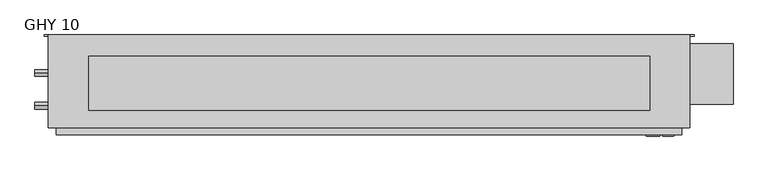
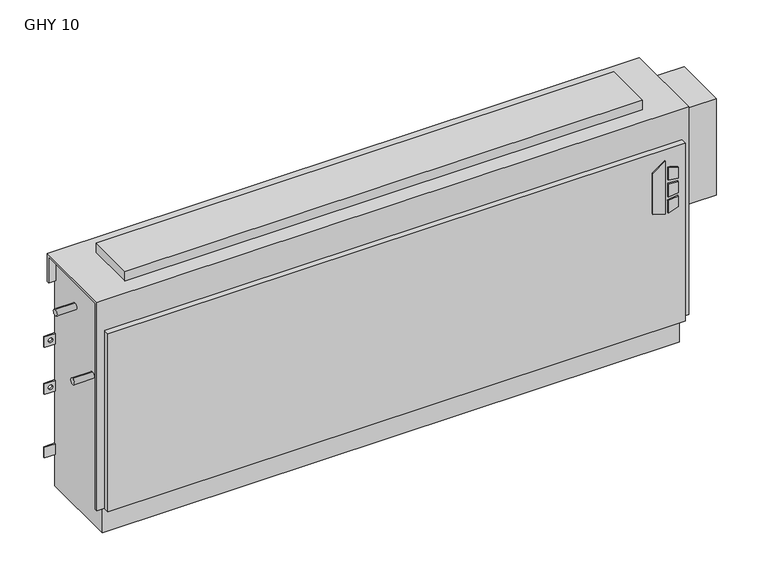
"""IFC4 building model written with IfcOpenShell, lengths in millimetres: proxy geometry, Vertical_Fan_Coil_Unit_-_GHY_-_IEC_-_2-Pipe_TS-FR_LH_2022 : GHY 10."""

from ifc_helpers import new_model, si_unit, point, frame, frame_2d, origin, place, context, project, spatial, polyline, circle_curve, trimmed, segment, composite_curve, outline, extrude, source, transform, mapped, element, save
from ifc_brep_helpers import plane_surface, revolved_surface, advanced_brep


def ghy_10_11aaa538(model_context):
    return source(origin(), model_context, "Body", "SolidModel", [
        extrude(outline(polyline([(391.6086829, 804.9368862), (381.6606126, 837.1102728), (523.831537, 837.1102728), (500.8095309, 804.9368862), (391.6086829, 804.9368862)])), frame((0.0, 6.35, 0.0), z_axis=(0.0, 1.0, 0.0), x_axis=(0.0, 0.0, 1.0)), (0.0, 0.0, 1.0), 3.175),
        extrude(outline(polyline([(470.6079683, 843.8686058), (467.4055757, 869.95), (496.6344168, 869.95), (504.6988318, 843.8686058), (470.6079683, 843.8686058)])), frame((0.0, 6.35, 0.0), z_axis=(0.0, 1.0, 0.0), x_axis=(0.0, 0.0, 1.0)), (0.0, 0.0, 1.0), 3.175),
        extrude(outline(polyline([(418.7444414, 869.95), (415.0789404, 843.8686058), (381.6606126, 843.8686058), (390.2948498, 869.95), (418.7444414, 869.95)])), frame((0.0, 6.35, 0.0), z_axis=(0.0, 1.0, 0.0), x_axis=(0.0, 0.0, 1.0)), (0.0, 0.0, 1.0), 3.175),
        extrude(outline(polyline([(458.0596028, 869.95), (460.3414292, 843.8686058), (424.4038806, 843.8686058), (427.1451456, 869.95), (458.0596028, 869.95)])), frame((0.0, 6.35, 0.0), z_axis=(0.0, 1.0, 0.0), x_axis=(0.0, 0.0, 1.0)), (0.0, 0.0, 1.0), 3.175),
        extrude(outline(polyline([(812.8, 193.675), (812.8, 66.675), (-508.0, 66.675), (-508.0, 193.675), (812.8, 193.675)])), frame((0.0, 0.0, 635.0), z_axis=(0.0, 0.0, 1.0), x_axis=(1.0, 0.0, 0.0)), (0.0, 0.0, 1.0), 25.4),
        extrude(outline(composite_curve([segment(trimmed(circle_curve(frame_2d((77.597, 401.574)), 7.9375), [point((77.597, 409.5115))], [point((77.597, 393.6365))], False, "CARTESIAN"), True, "CONTINUOUS"), segment(trimmed(circle_curve(frame_2d((77.597, 401.574)), 7.9375), [point((77.597, 393.6365))], [point((77.597, 409.5115))], False, "CARTESIAN"), True, "CONTINUOUS")], self_intersect=False)), frame((-635.0, 0.0, 0.0), z_axis=(1.0, 0.0, 0.0), x_axis=(0.0, 1.0, 0.0)), (0.0, 0.0, 1.0), 50.8),
        extrude(outline(composite_curve([segment(trimmed(circle_curve(frame_2d((154.559, 540.512)), 7.9375), [point((154.559, 548.4495))], [point((154.559, 532.5745))], False, "CARTESIAN"), True, "CONTINUOUS"), segment(trimmed(circle_curve(frame_2d((154.559, 540.512)), 7.9375), [point((154.559, 532.5745))], [point((154.559, 548.4495))], False, "CARTESIAN"), True, "CONTINUOUS")], self_intersect=False)), frame((-635.0, 0.0, 0.0), z_axis=(1.0, 0.0, 0.0), x_axis=(0.0, 1.0, 0.0)), (0.0, 0.0, 1.0), 50.8),
        extrude(outline(polyline([(1009.65, 223.266), (1009.65, 81.534), (889.0, 81.534), (889.0, 223.266), (1009.65, 223.266)])), frame((0.0, 0.0, 327.025), z_axis=(0.0, 0.0, 1.0), x_axis=(1.0, 0.0, 0.0)), (0.0, 0.0, 1.0), 260.35),
        advanced_brep(
        [(908.05, 244.475, 635.0), (-603.25, 244.475, 635.0), (-603.25, 25.4, 635.0), (908.05, 25.4, 635.0), (-584.2, 244.475, 0.0), (889.0, 244.475, 0.0), (889.0, 34.925, 0.0), (-584.2, 34.925, 0.0), (908.05, 244.475, 558.8), (889.0, 244.475, 558.8), (889.0, 244.475, 414.3375), (917.575, 244.475, 414.3375), (917.575, 244.475, 385.7625), (889.0, 244.475, 385.7625), (889.0, 244.475, 287.3375), (917.575, 244.475, 287.3375), (917.575, 244.475, 258.7625), (889.0, 244.475, 258.7625), (889.0, 244.475, 141.2875), (917.575, 244.475, 141.2875), (917.575, 244.475, 112.7125), (889.0, 244.475, 112.7125), (-584.2, 244.475, 87.3125), (-612.775, 244.475, 87.3125), (-612.775, 244.475, 115.8875), (-584.2, 244.475, 115.8875), (-584.2, 244.475, 258.7625), (-612.775, 244.475, 258.7625), (-612.775, 244.475, 287.3375), (-584.2, 244.475, 287.3375), (-584.2, 244.475, 385.7625), (-612.775, 244.475, 385.7625), (-612.775, 244.475, 414.3375), (-584.2, 244.475, 414.3375), (-584.2, 244.475, 558.8), (-603.25, 244.475, 558.8), (907.2626, 244.475, 127.0), (896.1374, 244.475, 127.0), (907.2626, 244.475, 273.05), (896.1374, 244.475, 273.05), (-591.3374, 244.475, 273.05), (-602.4626, 244.475, 273.05), (907.2626, 244.475, 400.05), (896.1374, 244.475, 400.05), (-591.3374, 244.475, 400.05), (-602.4626, 244.475, 400.05), (-603.25, 238.125, 558.8), (-603.25, 238.125, 628.65), (-603.25, 31.75, 628.65), (-603.25, 31.75, 73.025), (-603.25, 25.4, 73.025), (889.0, 9.525, 552.45), (-584.2, 9.525, 552.45), (-584.2, 9.525, 73.025), (889.0, 9.525, 73.025), (908.05, 25.4, 73.025), (908.05, 31.75, 73.025), (908.05, 31.75, 628.65), (908.05, 238.125, 628.65), (908.05, 238.125, 558.8), (-584.2, 25.4, 73.025), (-584.2, 25.4, 552.45), (889.0, 25.4, 552.45), (889.0, 25.4, 73.025), (-584.2, 31.75, 73.025), (-584.2, 34.925, 73.025), (889.0, 34.925, 73.025), (889.0, 31.75, 73.025), (889.0, 241.3, 112.7125), (889.0, 241.3, 141.2875), (889.0, 241.3, 258.7625), (889.0, 241.3, 287.3375), (889.0, 241.3, 385.7625), (889.0, 241.3, 414.3375), (889.0, 238.125, 558.8), (889.0, 238.125, 628.65), (889.0, 31.75, 628.65), (-584.2, 31.75, 628.65), (-584.2, 238.125, 628.65), (-584.2, 238.125, 558.8), (-584.2, 241.3, 414.3375), (-584.2, 241.3, 385.7625), (-584.2, 241.3, 287.3375), (-584.2, 241.3, 258.7625), (-584.2, 241.3, 115.8875), (-584.2, 241.3, 87.3125), (917.575, 241.3, 112.7125), (917.575, 241.3, 141.2875), (896.1374, 241.3, 127.0), (907.2626, 241.3, 127.0), (917.575, 241.3, 258.7625), (917.575, 241.3, 287.3375), (896.1374, 241.3, 273.05), (907.2626, 241.3, 273.05), (917.575, 241.3, 385.7625), (917.575, 241.3, 414.3375), (896.1374, 241.3, 400.05), (907.2626, 241.3, 400.05), (-612.775, 241.3, 115.8875), (-612.775, 241.3, 87.3125), (-612.775, 241.3, 287.3375), (-612.775, 241.3, 258.7625), (-602.4626, 241.3, 273.05), (-591.3374, 241.3, 273.05), (-612.775, 241.3, 414.3375), (-612.775, 241.3, 385.7625), (-602.4626, 241.3, 400.05), (-591.3374, 241.3, 400.05)],
        [
            (0, 1),
            (1, 2),
            (2, 3),
            (3, 0),
            (4, 5),
            (5, 6),
            (6, 7),
            (7, 4),
            (0, 8),
            (8, 9),
            (9, 10),
            (10, 11),
            (11, 12),
            (12, 13),
            (13, 14),
            (14, 15),
            (15, 16),
            (16, 17),
            (17, 18),
            (18, 19),
            (19, 20),
            (20, 21),
            (21, 5),
            (4, 22),
            (22, 23),
            (23, 24),
            (24, 25),
            (25, 26),
            (26, 27),
            (27, 28),
            (28, 29),
            (29, 30),
            (30, 31),
            (31, 32),
            (32, 33),
            (33, 34),
            (34, 35),
            (35, 1),
            (36, 37, circle_curve(frame((901.7, 244.475, 127.0), z_axis=(0.0, -1.0, 0.0), x_axis=(-1.0, 0.0, 0.0)), 5.5626)),
            (37, 36, circle_curve(frame((901.7, 244.475, 127.0), z_axis=(0.0, -1.0, 0.0), x_axis=(-1.0, 0.0, 0.0)), 5.5626)),
            (38, 39, circle_curve(frame((901.7, 244.475, 273.05), z_axis=(0.0, -1.0, 0.0), x_axis=(-1.0, 0.0, 0.0)), 5.5626)),
            (39, 38, circle_curve(frame((901.7, 244.475, 273.05), z_axis=(0.0, -1.0, 0.0), x_axis=(-1.0, 0.0, 0.0)), 5.5626)),
            (40, 41, circle_curve(frame((-596.9, 244.475, 273.05), z_axis=(0.0, -1.0, 0.0), x_axis=(-1.0, 0.0, 0.0)), 5.5626)),
            (41, 40, circle_curve(frame((-596.9, 244.475, 273.05), z_axis=(0.0, -1.0, 0.0), x_axis=(-1.0, 0.0, 0.0)), 5.5626)),
            (42, 43, circle_curve(frame((901.7, 244.475, 400.05), z_axis=(0.0, -1.0, 0.0), x_axis=(-1.0, 0.0, 0.0)), 5.5626)),
            (43, 42, circle_curve(frame((901.7, 244.475, 400.05), z_axis=(0.0, -1.0, 0.0), x_axis=(-1.0, 0.0, 0.0)), 5.5626)),
            (44, 45, circle_curve(frame((-596.9, 244.475, 400.05), z_axis=(0.0, -1.0, 0.0), x_axis=(-1.0, 0.0, 0.0)), 5.5626)),
            (45, 44, circle_curve(frame((-596.9, 244.475, 400.05), z_axis=(0.0, -1.0, 0.0), x_axis=(-1.0, 0.0, 0.0)), 5.5626)),
            (35, 46),
            (46, 47),
            (47, 48),
            (48, 49),
            (49, 50),
            (50, 2),
            (51, 52),
            (52, 53),
            (53, 54),
            (54, 51),
            (3, 55),
            (55, 56),
            (56, 57),
            (57, 58),
            (58, 59),
            (59, 8),
            (50, 60),
            (60, 61),
            (61, 62),
            (62, 63),
            (63, 55),
            (51, 62),
            (61, 52),
            (53, 60),
            (49, 64),
            (64, 65),
            (65, 66),
            (66, 67),
            (67, 56),
            (63, 54),
            (6, 66),
            (65, 7),
            (21, 68),
            (68, 69),
            (69, 18),
            (17, 70),
            (70, 71),
            (71, 14),
            (13, 72),
            (72, 73),
            (73, 10),
            (9, 74),
            (74, 75),
            (75, 76),
            (76, 67),
            (64, 77),
            (77, 78),
            (78, 79),
            (79, 34),
            (33, 80),
            (80, 81),
            (81, 30),
            (29, 82),
            (82, 83),
            (83, 26),
            (25, 84),
            (84, 85),
            (85, 22),
            (74, 59),
            (58, 75),
            (76, 57),
            (48, 77),
            (79, 46),
            (78, 47),
            (68, 86),
            (86, 87),
            (87, 69),
            (88, 89, circle_curve(frame((901.7, 241.3, 127.0), z_axis=(0.0, 1.0, 0.0), x_axis=(-1.0, 0.0, 0.0)), 5.5626)),
            (89, 88, circle_curve(frame((901.7, 241.3, 127.0), z_axis=(0.0, 1.0, 0.0), x_axis=(-1.0, 0.0, 0.0)), 5.5626)),
            (90, 91),
            (91, 71),
            (70, 90),
            (92, 93, circle_curve(frame((901.7, 241.3, 273.05), z_axis=(0.0, 1.0, 0.0), x_axis=(-1.0, 0.0, 0.0)), 5.5626)),
            (93, 92, circle_curve(frame((901.7, 241.3, 273.05), z_axis=(0.0, 1.0, 0.0), x_axis=(-1.0, 0.0, 0.0)), 5.5626)),
            (94, 95),
            (95, 73),
            (72, 94),
            (96, 97, circle_curve(frame((901.7, 241.3, 400.05), z_axis=(0.0, 1.0, 0.0), x_axis=(-1.0, 0.0, 0.0)), 5.5626)),
            (97, 96, circle_curve(frame((901.7, 241.3, 400.05), z_axis=(0.0, 1.0, 0.0), x_axis=(-1.0, 0.0, 0.0)), 5.5626)),
            (98, 99),
            (99, 85),
            (84, 98),
            (82, 100),
            (100, 101),
            (101, 83),
            (102, 103, circle_curve(frame((-596.9, 241.3, 273.05), z_axis=(0.0, 1.0, 0.0), x_axis=(-1.0, 0.0, 0.0)), 5.5626)),
            (103, 102, circle_curve(frame((-596.9, 241.3, 273.05), z_axis=(0.0, 1.0, 0.0), x_axis=(-1.0, 0.0, 0.0)), 5.5626)),
            (104, 105),
            (105, 81),
            (80, 104),
            (106, 107, circle_curve(frame((-596.9, 241.3, 400.05), z_axis=(0.0, 1.0, 0.0), x_axis=(-1.0, 0.0, 0.0)), 5.5626)),
            (107, 106, circle_curve(frame((-596.9, 241.3, 400.05), z_axis=(0.0, 1.0, 0.0), x_axis=(-1.0, 0.0, 0.0)), 5.5626)),
            (87, 19),
            (86, 20),
            (16, 90),
            (91, 15),
            (12, 94),
            (95, 11),
            (24, 98),
            (99, 23),
            (101, 27),
            (100, 28),
            (32, 104),
            (105, 31),
            (88, 37),
            (36, 89),
            (92, 39),
            (38, 93),
            (102, 41),
            (40, 103),
            (96, 43),
            (42, 97),
            (106, 45),
            (44, 107),
        ],
        [
            plane_surface(frame((-603.25, 244.475, 635.0), z_axis=(0.0, 0.0, 1.0), x_axis=(-1.0, 0.0, 0.0))),
            plane_surface(frame((-603.25, 244.475, 0.0), z_axis=(0.0, 0.0, -1.0), x_axis=(1.0, 0.0, 0.0))),
            plane_surface(frame((908.05, 244.475, 635.0), z_axis=(0.0, 1.0, 0.0), x_axis=(0.0, 0.0, -1.0))),
            plane_surface(frame((-603.25, 244.475, 635.0), z_axis=(-1.0, 0.0, 0.0), x_axis=(0.0, 0.0, -1.0))),
            plane_surface(frame((-603.25, 9.525, 635.0), z_axis=(0.0, -1.0, 0.0), x_axis=(0.0, 0.0, -1.0))),
            plane_surface(frame((908.05, 9.525, 635.0), z_axis=(1.0, 0.0, 0.0), x_axis=(0.0, 0.0, -1.0))),
            plane_surface(frame((-1060.45, 25.4, 635.0), z_axis=(0.0, -1.0, 0.0), x_axis=(1.0, 0.0, 0.0))),
            plane_surface(frame((-1060.45, 25.4, 552.45), z_axis=(0.0, 0.0, 1.0), x_axis=(1.0, 0.0, 0.0))),
            plane_surface(frame((-603.25, 9.525, 73.025), z_axis=(0.0, 0.0, -1.0), x_axis=(1.0, 0.0, 0.0))),
            plane_surface(frame((-603.25, 34.925, 73.025), z_axis=(0.0, -1.0, 0.0), x_axis=(1.0, 0.0, 0.0))),
            plane_surface(frame((889.0, 25.4, 73.025), z_axis=(1.0, 0.0, 0.0), x_axis=(0.0, -1.0, 0.0))),
            plane_surface(frame((-584.2, 25.4, 552.45), z_axis=(-1.0, 0.0, 0.0), x_axis=(0.0, -1.0, 0.0))),
            plane_surface(frame((889.0, 244.475, 0.0), z_axis=(1.0, 0.0, 0.0), x_axis=(0.0, -1.0, 0.0))),
            plane_surface(frame((-584.2, 244.475, 73.025), z_axis=(-1.0, 0.0, 0.0), x_axis=(0.0, -1.0, 0.0))),
            plane_surface(frame((889.0, 238.125, 628.65), z_axis=(0.0, -1.0, 0.0), x_axis=(1.0, 0.0, 0.0))),
            plane_surface(frame((889.0, 238.125, 558.8), z_axis=(0.0, 0.0, -1.0), x_axis=(1.0, 0.0, 0.0))),
            plane_surface(frame((889.0, 31.75, 73.025), z_axis=(0.0, 1.0, 0.0), x_axis=(1.0, 0.0, 0.0))),
            plane_surface(frame((889.0, 31.75, 628.65), z_axis=(0.0, 0.0, -1.0), x_axis=(1.0, 0.0, 0.0))),
            plane_surface(frame((-584.2, 31.75, 628.65), z_axis=(0.0, 1.0, 0.0), x_axis=(-1.0, 0.0, 0.0))),
            plane_surface(frame((-584.2, 244.475, 558.8), z_axis=(0.0, 0.0, -1.0), x_axis=(-1.0, 0.0, 0.0))),
            plane_surface(frame((-584.2, 238.125, 558.8), z_axis=(0.0, -1.0, 0.0), x_axis=(-1.0, 0.0, 0.0))),
            plane_surface(frame((-584.2, 238.125, 628.65), z_axis=(0.0, 0.0, -1.0), x_axis=(-1.0, 0.0, 0.0))),
            plane_surface(frame((917.575, 241.3, 141.2875), z_axis=(0.0, -1.0, 0.0), x_axis=(-1.0, 0.0, 0.0))),
            plane_surface(frame((889.0, 244.475, 141.2875), z_axis=(0.0, 0.0, 1.0), x_axis=(0.0, -1.0, 0.0))),
            plane_surface(frame((917.575, 244.475, 141.2875), z_axis=(1.0, 0.0, 0.0), x_axis=(0.0, -1.0, 0.0))),
            plane_surface(frame((917.575, 244.475, 112.7125), z_axis=(0.0, 0.0, -1.0), x_axis=(0.0, -1.0, 0.0))),
            plane_surface(frame((917.575, 244.475, 258.7625), z_axis=(0.0, 0.0, -1.0), x_axis=(0.0, -1.0, 0.0))),
            plane_surface(frame((889.0, 244.475, 287.3375), z_axis=(0.0, 0.0, 1.0), x_axis=(0.0, -1.0, 0.0))),
            plane_surface(frame((917.575, 244.475, 287.3375), z_axis=(1.0, 0.0, 0.0), x_axis=(0.0, -1.0, 0.0))),
            plane_surface(frame((917.575, 244.475, 385.7625), z_axis=(0.0, 0.0, -1.0), x_axis=(0.0, -1.0, 0.0))),
            plane_surface(frame((889.0, 244.475, 414.3375), z_axis=(0.0, 0.0, 1.0), x_axis=(0.0, -1.0, 0.0))),
            plane_surface(frame((917.575, 244.475, 414.3375), z_axis=(1.0, 0.0, 0.0), x_axis=(0.0, -1.0, 0.0))),
            plane_surface(frame((-612.775, 244.475, 115.8875), z_axis=(0.0, 0.0, 1.0), x_axis=(0.0, -1.0, 0.0))),
            plane_surface(frame((-584.2, 244.475, 87.3125), z_axis=(0.0, 0.0, -1.0), x_axis=(0.0, -1.0, 0.0))),
            plane_surface(frame((-612.775, 244.475, 87.3125), z_axis=(-1.0, 0.0, 0.0), x_axis=(0.0, -1.0, 0.0))),
            plane_surface(frame((-584.2, 244.475, 258.7625), z_axis=(0.0, 0.0, -1.0), x_axis=(0.0, -1.0, 0.0))),
            plane_surface(frame((-612.775, 244.475, 258.7625), z_axis=(-1.0, 0.0, 0.0), x_axis=(0.0, -1.0, 0.0))),
            plane_surface(frame((-612.775, 244.475, 287.3375), z_axis=(0.0, 0.0, 1.0), x_axis=(0.0, -1.0, 0.0))),
            plane_surface(frame((-612.775, 244.475, 414.3375), z_axis=(0.0, 0.0, 1.0), x_axis=(0.0, -1.0, 0.0))),
            plane_surface(frame((-584.2, 244.475, 385.7625), z_axis=(0.0, 0.0, -1.0), x_axis=(0.0, -1.0, 0.0))),
            plane_surface(frame((-612.775, 244.475, 385.7625), z_axis=(-1.0, 0.0, 0.0), x_axis=(0.0, -1.0, 0.0))),
            revolved_surface(polyline([(896.1374000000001, 241.3, 127.0), (896.1374000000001, 244.475, 127.0)]), (901.7, 244.475, 127.0), (0.0, -1.0, 0.0)),
            revolved_surface(polyline([(896.1374000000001, 241.3, 273.05), (896.1374000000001, 244.475, 273.05)]), (901.7, 244.475, 273.05), (0.0, -1.0, 0.0)),
            revolved_surface(polyline([(-602.4626, 241.3, 273.05), (-602.4626, 244.475, 273.05)]), (-596.9, 244.475, 273.05), (0.0, -1.0, 0.0)),
            revolved_surface(polyline([(896.1374000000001, 241.3, 400.05), (896.1374000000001, 244.475, 400.05)]), (901.7, 244.475, 400.05), (0.0, -1.0, 0.0)),
            revolved_surface(polyline([(-602.4626, 241.3, 400.05), (-602.4626, 244.475, 400.05)]), (-596.9, 244.475, 400.05), (0.0, -1.0, 0.0)),
        ],
        [
            (0, [[1, 2, 3, 4]]),
            (1, [[5, 6, 7, 8]]),
            (2, [[-1, 9, 10, 11, 12, 13, 14, 15, 16, 17, 18, 19, 20, 21, 22, 23, -5, 24, 25, 26, 27, 28, 29, 30, 31, 32, 33, 34, 35, 36, 37, 38], [39, 40], [41, 42], [43, 44], [45, 46], [47, 48]]),
            (3, [[-2, -38, 49, 50, 51, 52, 53, 54]]),
            (4, [[55, 56, 57, 58]]),
            (5, [[-4, 59, 60, 61, 62, 63, 64, -9]]),
            (6, [[-3, -54, 65, 66, 67, 68, 69, -59]]),
            (7, [[-55, 70, -67, 71]]),
            (8, [[-57, 72, -65, -53, 73, 74, 75, 76, 77, -60, -69, 78]]),
            (9, [[-7, 79, -75, 80]]),
            (10, [[-68, -70, -58, -78]]),
            (11, [[-66, -72, -56, -71]]),
            (12, [[-6, -23, 81, 82, 83, -19, 84, 85, 86, -15, 87, 88, 89, -11, 90, 91, 92, 93, -76, -79]]),
            (13, [[-8, -80, -74, 94, 95, 96, 97, -36, 98, 99, 100, -32, 101, 102, 103, -28, 104, 105, 106, -24]]),
            (14, [[-91, 107, -63, 108]]),
            (15, [[-90, -10, -64, -107]]),
            (16, [[-93, 109, -61, -77]]),
            (17, [[-92, -108, -62, -109]]),
            (18, [[-94, -73, -52, 110]]),
            (19, [[-97, 111, -49, -37]]),
            (20, [[-96, 112, -50, -111]]),
            (21, [[-95, -110, -51, -112]]),
            (22, [[113, 114, 115, -82], [116, 117]]),
            (22, [[118, 119, -85, 120], [121, 122]]),
            (22, [[123, 124, -88, 125], [126, 127]]),
            (22, [[128, 129, -105, 130]]),
            (22, [[131, 132, 133, -102], [134, 135]]),
            (22, [[136, 137, -99, 138], [139, 140]]),
            (23, [[-115, 141, -20, -83]]),
            (24, [[-114, 142, -21, -141]]),
            (25, [[-113, -81, -22, -142]]),
            (26, [[-120, -84, -18, 143]]),
            (27, [[-119, 144, -16, -86]]),
            (28, [[-118, -143, -17, -144]]),
            (29, [[-125, -87, -14, 145]]),
            (30, [[-124, 146, -12, -89]]),
            (31, [[-123, -145, -13, -146]]),
            (32, [[-130, -104, -27, 147]]),
            (33, [[-129, 148, -25, -106]]),
            (34, [[-128, -147, -26, -148]]),
            (35, [[-133, 149, -29, -103]]),
            (36, [[-132, 150, -30, -149]]),
            (37, [[-131, -101, -31, -150]]),
            (38, [[-138, -98, -35, 151]]),
            (39, [[-137, 152, -33, -100]]),
            (40, [[-136, -151, -34, -152]]),
            (41, [[153, -39, 154, -116]]),
            (41, [[-153, -117, -154, -40]]),
            (42, [[155, -41, 156, -121]]),
            (42, [[-155, -122, -156, -42]]),
            (43, [[157, -43, 158, -134]]),
            (43, [[-157, -135, -158, -44]]),
            (44, [[159, -45, 160, -126]]),
            (44, [[-159, -127, -160, -46]]),
            (45, [[161, -47, 162, -139]]),
            (45, [[-161, -140, -162, -48]]),
        ],
    ),
    ])


if __name__ == "__main__":
    model = new_model("IFC4")
    model_context = context("Model", 3, world=origin())
    ifc_project = project(units=[si_unit("LENGTHUNIT", "METRE", prefix="MILLI")], contexts=[model_context])
    site = spatial("IfcSite", under=ifc_project)
    building = spatial("IfcBuilding", under=site)
    placement = place(None, origin())
    ghy_10_shape = ghy_10_11aaa538(model_context)
    element("IfcBuildingElementProxy", 1, Name="Vertical_Fan_Coil_Unit_-_GHY_-_IEC_-_2-Pipe_TS-FR_LH_2022 : GHY 10", ObjectType="Vertical_Fan_Coil_Unit_-_GHY_-_IEC_-_2-Pipe_TS-FR_LH_2022 : GHY 10", at=placement, inside=building, context=model_context, shape_type="MappedRepresentation", body=[
        mapped(ghy_10_shape, transform((0.0, 0.0, 0.0), x_axis=(1.0, 0.0, 0.0), y_axis=(0.0, 1.0, 0.0), z_axis=(0.0, 0.0, 1.0))),
    ])
    save(model, "model.ifc")
